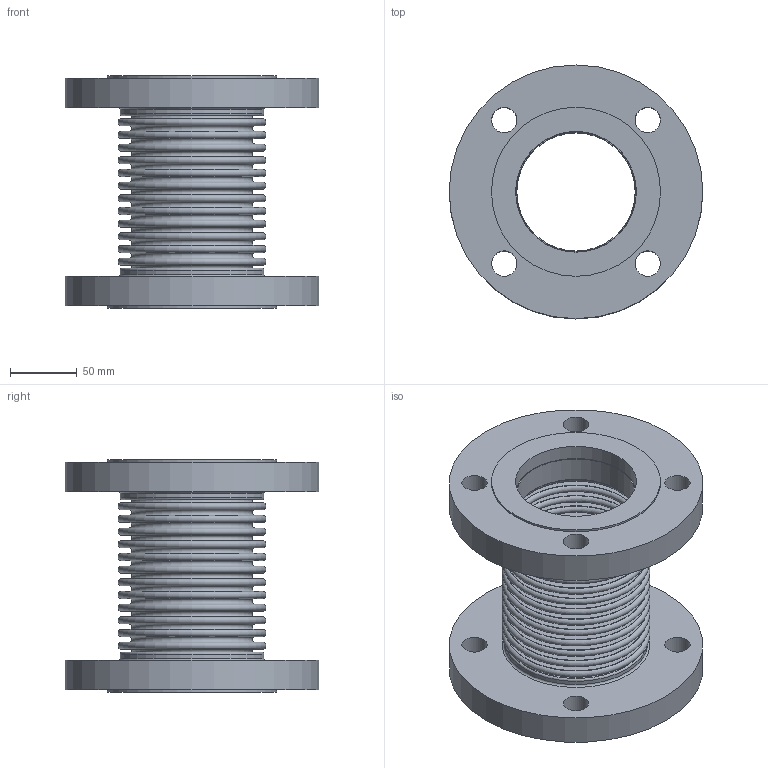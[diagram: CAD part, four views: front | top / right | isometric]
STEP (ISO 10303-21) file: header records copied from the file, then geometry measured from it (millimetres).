
FILE_DESCRIPTION(/* description */ ('EXPANSION JOINT,SINGLE, FLANGED ENDS,3 INCH NOMINAL','CAx-IF Rec.Pracs.---Representation and Presentation of Product Manufacturing Information (PMI)---4.0---2014-10-13'),/* implementation_level */ '2;1');
FILE_NAME(/* name */ 'US-03-12-150L-FLANGED ENDS.stp',/* time_stamp */ '2026-07-31T16:46:43-05:00',/* author */ ('Guadalupe'),/* organization */ (''),/* preprocessor_version */ 'ST-DEVELOPER v20.1',/* originating_system */ 'Autodesk Inventor 2026',/* authorisation */ '');
FILE_SCHEMA (('AP242_MANAGED_MODEL_BASED_3D_ENGINEERING_MIM_LF { 1 0 10303 442 2 1 4 }'));
Length unit declared in the file: inch
Products named in the file (3): 03-150L; 03-150L-02; 03-150L-01
Assembly tree (3 placements, depth 2):
  03-150L
    03-150L-02  x2
    03-150L-01
Bounding box: 190.5 x 190.5 x 174.24 mm (x, y, z)
Volume: 1053594.5 mm3; surface area: 364466.7 mm2
Topology: 5 solids, 5 shells, 136 faces, 222 edges, 148 vertices
Faces by surface type: plane 62, torus 54, cylinder 20
Full cylindrical faces by diameter (mm): 19.05 x8, 88.9 x2, 90.119 x2, 90.678 x2, 107.95 x2, 127 x2, 190.5 x2
Entity records: 3138 total; most frequent: DIRECTION 654, CARTESIAN_POINT 465, ORIENTED_EDGE 384, AXIS2_PLACEMENT_3D 321, EDGE_CURVE 192, EDGE_LOOP 188, CIRCLE 180, VERTEX_POINT 128
